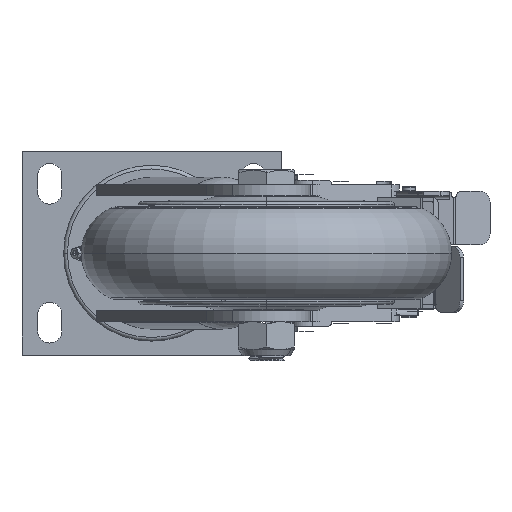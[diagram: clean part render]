
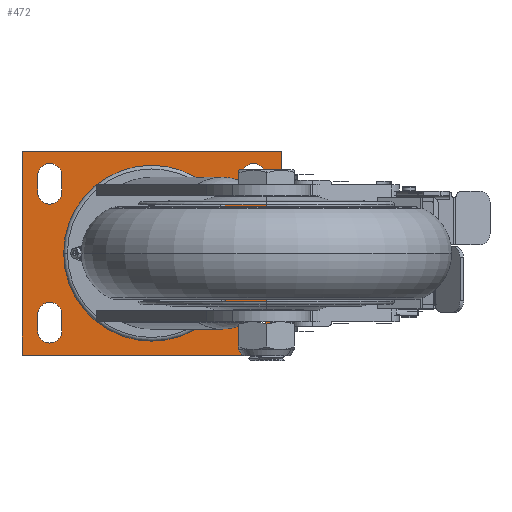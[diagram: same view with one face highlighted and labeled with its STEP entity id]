
A CAD part, front view. The second image highlights one B-rep face of the part: STEP entity #472.
In plain terms, the highlighted planar face has unit normal (0, -1, 0).
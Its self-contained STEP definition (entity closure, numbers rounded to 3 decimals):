
#25=CARTESIAN_POINT('',(0.,-10.,0.));
#26=DIRECTION('',(0.,-1.,0.));
#27=DIRECTION('',(1.,0.,0.));
#28=AXIS2_PLACEMENT_3D('',#25,#26,#27);
#30=CARTESIAN_POINT('',(0.,-10.,0.));
#31=DIRECTION('',(0.,-1.,0.));
#32=DIRECTION('',(-1.,0.,0.));
#33=AXIS2_PLACEMENT_3D('',#30,#31,#32);
#35=DIRECTION('',(0.,0.,-1.));
#36=VECTOR('',#35,110.);
#37=CARTESIAN_POINT('',(-70.,-10.,55.));
#38=LINE('',#37,#36);
#39=DIRECTION('',(-1.,0.,0.));
#40=VECTOR('',#39,140.);
#41=CARTESIAN_POINT('',(70.,-10.,55.));
#42=LINE('',#41,#40);
#43=DIRECTION('',(0.,0.,1.));
#44=VECTOR('',#43,110.);
#45=CARTESIAN_POINT('',(70.,-10.,-55.));
#46=LINE('',#45,#44);
#47=DIRECTION('',(1.,0.,0.));
#48=VECTOR('',#47,140.);
#49=CARTESIAN_POINT('',(-70.,-10.,-55.));
#50=LINE('',#49,#48);
#51=DIRECTION('',(0.,0.,1.));
#52=VECTOR('',#51,9.);
#53=CARTESIAN_POINT('',(48.5,-10.,-42.));
#54=LINE('',#53,#52);
#55=CARTESIAN_POINT('',(55.,-10.,-42.));
#56=DIRECTION('',(0.,1.,0.));
#57=DIRECTION('',(1.,0.,0.));
#58=AXIS2_PLACEMENT_3D('',#55,#56,#57);
#60=DIRECTION('',(0.,0.,-1.));
#61=VECTOR('',#60,9.);
#62=CARTESIAN_POINT('',(61.5,-10.,-33.));
#63=LINE('',#62,#61);
#64=CARTESIAN_POINT('',(55.,-10.,-33.));
#65=DIRECTION('',(0.,1.,0.));
#66=DIRECTION('',(-1.,0.,0.));
#67=AXIS2_PLACEMENT_3D('',#64,#65,#66);
#69=DIRECTION('',(0.,0.,1.));
#70=VECTOR('',#69,9.);
#71=CARTESIAN_POINT('',(-61.5,-10.,-42.));
#72=LINE('',#71,#70);
#73=CARTESIAN_POINT('',(-55.,-10.,-42.));
#74=DIRECTION('',(0.,1.,0.));
#75=DIRECTION('',(1.,0.,0.));
#76=AXIS2_PLACEMENT_3D('',#73,#74,#75);
#78=DIRECTION('',(0.,0.,-1.));
#79=VECTOR('',#78,9.);
#80=CARTESIAN_POINT('',(-48.5,-10.,-33.));
#81=LINE('',#80,#79);
#82=CARTESIAN_POINT('',(-55.,-10.,-33.));
#83=DIRECTION('',(0.,1.,0.));
#84=DIRECTION('',(-1.,0.,0.));
#85=AXIS2_PLACEMENT_3D('',#82,#83,#84);
#87=DIRECTION('',(0.,0.,1.));
#88=VECTOR('',#87,9.);
#89=CARTESIAN_POINT('',(48.5,-10.,33.));
#90=LINE('',#89,#88);
#91=CARTESIAN_POINT('',(55.,-10.,33.));
#92=DIRECTION('',(0.,1.,0.));
#93=DIRECTION('',(1.,0.,0.));
#94=AXIS2_PLACEMENT_3D('',#91,#92,#93);
#96=DIRECTION('',(0.,0.,-1.));
#97=VECTOR('',#96,9.);
#98=CARTESIAN_POINT('',(61.5,-10.,42.));
#99=LINE('',#98,#97);
#100=CARTESIAN_POINT('',(55.,-10.,42.));
#101=DIRECTION('',(0.,1.,0.));
#102=DIRECTION('',(-1.,0.,0.));
#103=AXIS2_PLACEMENT_3D('',#100,#101,#102);
#105=DIRECTION('',(0.,0.,1.));
#106=VECTOR('',#105,9.);
#107=CARTESIAN_POINT('',(-61.5,-10.,33.));
#108=LINE('',#107,#106);
#109=CARTESIAN_POINT('',(-55.,-10.,33.));
#110=DIRECTION('',(0.,1.,0.));
#111=DIRECTION('',(1.,0.,0.));
#112=AXIS2_PLACEMENT_3D('',#109,#110,#111);
#114=DIRECTION('',(0.,0.,-1.));
#115=VECTOR('',#114,9.);
#116=CARTESIAN_POINT('',(-48.5,-10.,42.));
#117=LINE('',#116,#115);
#118=CARTESIAN_POINT('',(-55.,-10.,42.));
#119=DIRECTION('',(0.,1.,0.));
#120=DIRECTION('',(-1.,0.,0.));
#121=AXIS2_PLACEMENT_3D('',#118,#119,#120);
#327=CARTESIAN_POINT('',(-44.15,-10.,0.));
#328=CARTESIAN_POINT('',(44.15,-10.,0.));
#329=VERTEX_POINT('',#327);
#330=VERTEX_POINT('',#328);
#331=CARTESIAN_POINT('',(-70.,-10.,55.));
#332=CARTESIAN_POINT('',(-70.,-10.,-55.));
#333=VERTEX_POINT('',#331);
#334=VERTEX_POINT('',#332);
#335=CARTESIAN_POINT('',(70.,-10.,-55.));
#336=VERTEX_POINT('',#335);
#337=CARTESIAN_POINT('',(70.,-10.,55.));
#338=VERTEX_POINT('',#337);
#347=CARTESIAN_POINT('',(48.5,-10.,-42.));
#348=CARTESIAN_POINT('',(48.5,-10.,-33.));
#349=VERTEX_POINT('',#347);
#350=VERTEX_POINT('',#348);
#351=CARTESIAN_POINT('',(61.5,-10.,-33.));
#352=VERTEX_POINT('',#351);
#353=CARTESIAN_POINT('',(61.5,-10.,-42.));
#354=VERTEX_POINT('',#353);
#363=CARTESIAN_POINT('',(-61.5,-10.,-42.));
#364=CARTESIAN_POINT('',(-61.5,-10.,-33.));
#365=VERTEX_POINT('',#363);
#366=VERTEX_POINT('',#364);
#367=CARTESIAN_POINT('',(-48.5,-10.,-33.));
#368=VERTEX_POINT('',#367);
#369=CARTESIAN_POINT('',(-48.5,-10.,-42.));
#370=VERTEX_POINT('',#369);
#379=CARTESIAN_POINT('',(48.5,-10.,33.));
#380=CARTESIAN_POINT('',(48.5,-10.,42.));
#381=VERTEX_POINT('',#379);
#382=VERTEX_POINT('',#380);
#383=CARTESIAN_POINT('',(61.5,-10.,42.));
#384=VERTEX_POINT('',#383);
#385=CARTESIAN_POINT('',(61.5,-10.,33.));
#386=VERTEX_POINT('',#385);
#395=CARTESIAN_POINT('',(-61.5,-10.,33.));
#396=CARTESIAN_POINT('',(-61.5,-10.,42.));
#397=VERTEX_POINT('',#395);
#398=VERTEX_POINT('',#396);
#399=CARTESIAN_POINT('',(-48.5,-10.,42.));
#400=VERTEX_POINT('',#399);
#401=CARTESIAN_POINT('',(-48.5,-10.,33.));
#402=VERTEX_POINT('',#401);
#411=CARTESIAN_POINT('',(0.,-10.,0.));
#412=DIRECTION('',(0.,1.,0.));
#413=DIRECTION('',(1.,0.,0.));
#414=AXIS2_PLACEMENT_3D('',#411,#412,#413);
#415=PLANE('',#414);
#417=ORIENTED_EDGE('',*,*,#416,.F.);
#419=ORIENTED_EDGE('',*,*,#418,.F.);
#421=ORIENTED_EDGE('',*,*,#420,.F.);
#423=ORIENTED_EDGE('',*,*,#422,.F.);
#424=EDGE_LOOP('',(#417,#419,#421,#423));
#425=FACE_OUTER_BOUND('',#424,.F.);
#427=ORIENTED_EDGE('',*,*,#426,.T.);
#429=ORIENTED_EDGE('',*,*,#428,.T.);
#430=EDGE_LOOP('',(#427,#429));
#431=FACE_BOUND('',#430,.F.);
#433=ORIENTED_EDGE('',*,*,#432,.F.);
#435=ORIENTED_EDGE('',*,*,#434,.F.);
#437=ORIENTED_EDGE('',*,*,#436,.F.);
#439=ORIENTED_EDGE('',*,*,#438,.F.);
#440=EDGE_LOOP('',(#433,#435,#437,#439));
#441=FACE_BOUND('',#440,.F.);
#443=ORIENTED_EDGE('',*,*,#442,.F.);
#445=ORIENTED_EDGE('',*,*,#444,.F.);
#447=ORIENTED_EDGE('',*,*,#446,.F.);
#449=ORIENTED_EDGE('',*,*,#448,.F.);
#450=EDGE_LOOP('',(#443,#445,#447,#449));
#451=FACE_BOUND('',#450,.F.);
#453=ORIENTED_EDGE('',*,*,#452,.F.);
#455=ORIENTED_EDGE('',*,*,#454,.F.);
#457=ORIENTED_EDGE('',*,*,#456,.F.);
#459=ORIENTED_EDGE('',*,*,#458,.F.);
#460=EDGE_LOOP('',(#453,#455,#457,#459));
#461=FACE_BOUND('',#460,.F.);
#463=ORIENTED_EDGE('',*,*,#462,.F.);
#465=ORIENTED_EDGE('',*,*,#464,.F.);
#467=ORIENTED_EDGE('',*,*,#466,.F.);
#469=ORIENTED_EDGE('',*,*,#468,.F.);
#470=EDGE_LOOP('',(#463,#465,#467,#469));
#471=FACE_BOUND('',#470,.F.);
#29=CIRCLE('',#28,44.15);
#34=CIRCLE('',#33,44.15);
#59=CIRCLE('',#58,6.5);
#68=CIRCLE('',#67,6.5);
#77=CIRCLE('',#76,6.5);
#86=CIRCLE('',#85,6.5);
#95=CIRCLE('',#94,6.5);
#104=CIRCLE('',#103,6.5);
#113=CIRCLE('',#112,6.5);
#122=CIRCLE('',#121,6.5);
#416=EDGE_CURVE('',#333,#334,#38,.T.);
#418=EDGE_CURVE('',#338,#333,#42,.T.);
#420=EDGE_CURVE('',#336,#338,#46,.T.);
#422=EDGE_CURVE('',#334,#336,#50,.T.);
#426=EDGE_CURVE('',#330,#329,#29,.T.);
#428=EDGE_CURVE('',#329,#330,#34,.T.);
#432=EDGE_CURVE('',#349,#350,#54,.T.);
#434=EDGE_CURVE('',#354,#349,#59,.T.);
#436=EDGE_CURVE('',#352,#354,#63,.T.);
#438=EDGE_CURVE('',#350,#352,#68,.T.);
#442=EDGE_CURVE('',#365,#366,#72,.T.);
#444=EDGE_CURVE('',#370,#365,#77,.T.);
#446=EDGE_CURVE('',#368,#370,#81,.T.);
#448=EDGE_CURVE('',#366,#368,#86,.T.);
#452=EDGE_CURVE('',#381,#382,#90,.T.);
#454=EDGE_CURVE('',#386,#381,#95,.T.);
#456=EDGE_CURVE('',#384,#386,#99,.T.);
#458=EDGE_CURVE('',#382,#384,#104,.T.);
#462=EDGE_CURVE('',#397,#398,#108,.T.);
#464=EDGE_CURVE('',#402,#397,#113,.T.);
#466=EDGE_CURVE('',#400,#402,#117,.T.);
#468=EDGE_CURVE('',#398,#400,#122,.T.);
#472=ADVANCED_FACE('',(#425,#431,#441,#451,#461,#471),#415,.F.);
